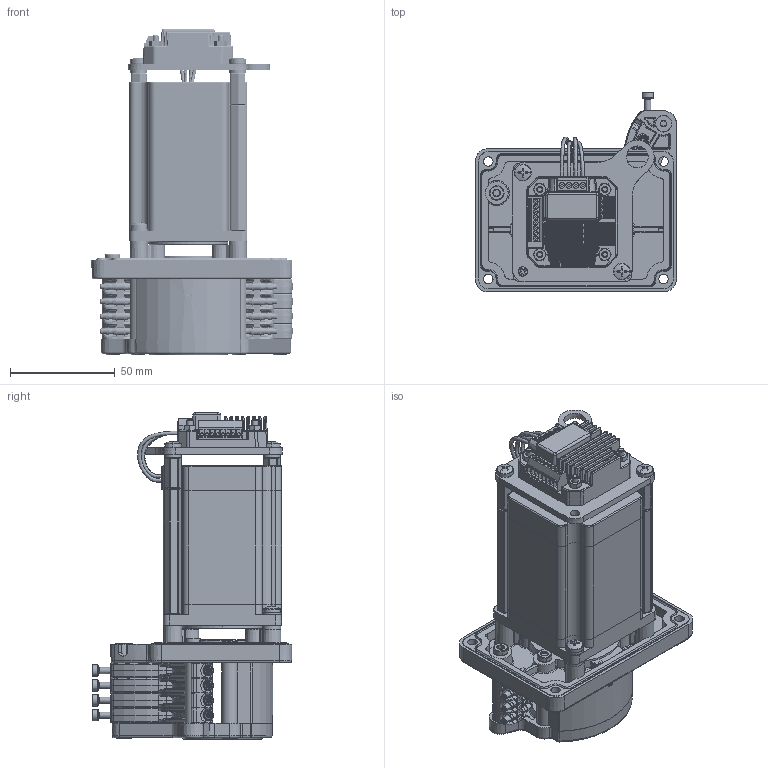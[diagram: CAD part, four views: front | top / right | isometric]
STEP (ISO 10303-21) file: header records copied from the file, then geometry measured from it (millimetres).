
FILE_DESCRIPTION (( 'STEP AP214' ), '1' );
FILE_NAME ('Assy_6K6001_A4_R00.STEP', '2026-09-24T12:41:50', ( '' ), ( '' ), 'SwSTEP 2.0', 'SolidWorks 2021', '' );
FILE_SCHEMA (( 'AUTOMOTIVE_DESIGN' ));
Length unit declared in the file: millimetre
Products named in the file (1): Assy_6K6001_A4_R00
Bounding box: 95.89 x 95.23 x 155.35 mm (x, y, z)
Volume: 348454.8 mm3; surface area: 113046.1 mm2
Topology: 11 solids, 27 shells, 4057 faces, 9784 edges, 5679 vertices
Faces by surface type: plane 1404, cylinder 1114, bspline 605, cone 419, torus 292, sphere 223
Full cylindrical faces by diameter (mm): 1.5 x8, 1.6 x2, 1.65 x2, 1.8 x8, 2.2 x8, 2.5 x1, 2.7 x4, 2.8 x4, 3 x14, 3.2 x10, 3.4 x2, 3.96 x3, 4 x2, 4.022 x2, 4.2 x3, 4.5 x7, 5 x4, 5.5 x4, 6.5 x4, 7.5 x10, 8 x4, 8.55 x4, 10 x1, 24 x1
Entity records: 137080 total; most frequent: CARTESIAN_POINT 51842, ORIENTED_EDGE 18446, DIRECTION 16570, EDGE_CURVE 9223, AXIS2_PLACEMENT_3D 6352, VERTEX_POINT 5562, EDGE_LOOP 4487, FACE_OUTER_BOUND 4181
